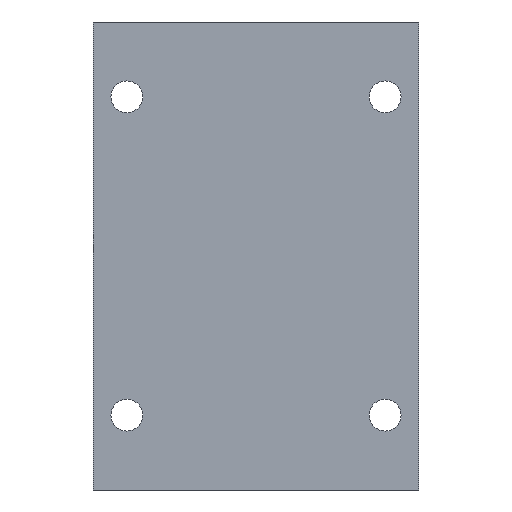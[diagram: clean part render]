
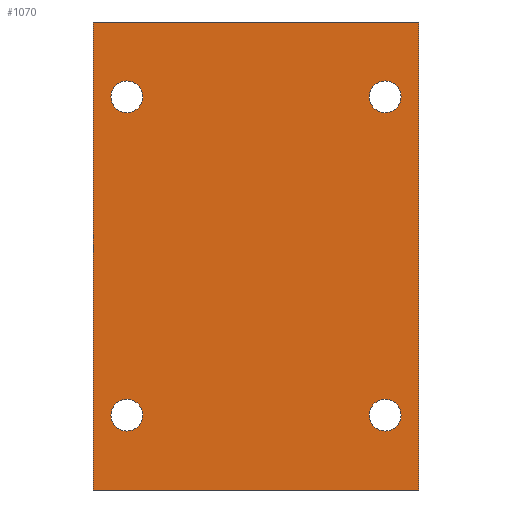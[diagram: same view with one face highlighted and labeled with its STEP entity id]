
A CAD part, front view. The second image highlights one B-rep face of the part: STEP entity #1070.
In plain terms, the highlighted planar face has unit normal (0, -1, 0).
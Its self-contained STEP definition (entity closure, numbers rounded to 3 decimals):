
#5 = AXIS2_PLACEMENT_3D ( 'NONE', #203, #1177, #974 ) ;
#15 = VERTEX_POINT ( 'NONE', #145 ) ;
#23 = CARTESIAN_POINT ( 'NONE',  ( -43.5, -38., 62.5 ) ) ;
#33 = CARTESIAN_POINT ( 'NONE',  ( 34.5, -38., -42.5 ) ) ;
#39 = CARTESIAN_POINT ( 'NONE',  ( 34.5, -38., -46.75 ) ) ;
#54 = EDGE_CURVE ( 'NONE', #701, #1277, #1142, .T. ) ;
#61 = DIRECTION ( 'NONE',  ( 0., 0., -1. ) ) ;
#64 = CARTESIAN_POINT ( 'NONE',  ( -34.5, -38., 46.75 ) ) ;
#90 = CARTESIAN_POINT ( 'NONE',  ( -34.5, -38., 38.25 ) ) ;
#91 = ORIENTED_EDGE ( 'NONE', *, *, #355, .F. ) ;
#103 = DIRECTION ( 'NONE',  ( 0., -1., 0. ) ) ;
#116 = DIRECTION ( 'NONE',  ( 0., 0., -1. ) ) ;
#133 = LINE ( 'NONE', #331, #757 ) ;
#134 = VERTEX_POINT ( 'NONE', #64 ) ;
#145 = CARTESIAN_POINT ( 'NONE',  ( -34.5, -38., -46.75 ) ) ;
#157 = DIRECTION ( 'NONE',  ( 0., -1., 0. ) ) ;
#203 = CARTESIAN_POINT ( 'NONE',  ( -43.5, -38., 62.5 ) ) ;
#222 = ORIENTED_EDGE ( 'NONE', *, *, #1145, .F. ) ;
#223 = EDGE_LOOP ( 'NONE', ( #597, #953 ) ) ;
#246 = DIRECTION ( 'NONE',  ( 1., 0., 0. ) ) ;
#255 = EDGE_CURVE ( 'NONE', #400, #1029, #312, .T. ) ;
#271 = CIRCLE ( 'NONE', #449, 4.25 ) ;
#276 = FACE_BOUND ( 'NONE', #223, .T. ) ;
#290 = ORIENTED_EDGE ( 'NONE', *, *, #1228, .F. ) ;
#291 = DIRECTION ( 'NONE',  ( 0., -1., 0. ) ) ;
#294 = CARTESIAN_POINT ( 'NONE',  ( 34.5, -38., 38.25 ) ) ;
#305 = DIRECTION ( 'NONE',  ( 0., -1., 0. ) ) ;
#312 = CIRCLE ( 'NONE', #692, 4.25 ) ;
#317 = EDGE_CURVE ( 'NONE', #817, #701, #397, .T. ) ;
#323 = EDGE_CURVE ( 'NONE', #540, #134, #950, .T. ) ;
#331 = CARTESIAN_POINT ( 'NONE',  ( -43.5, -38., 62.5 ) ) ;
#337 = AXIS2_PLACEMENT_3D ( 'NONE', #910, #305, #618 ) ;
#355 = EDGE_CURVE ( 'NONE', #1199, #15, #738, .T. ) ;
#357 = CIRCLE ( 'NONE', #573, 4.25 ) ;
#370 = DIRECTION ( 'NONE',  ( 0., -1., 0. ) ) ;
#375 = CIRCLE ( 'NONE', #1242, 4.25 ) ;
#378 = AXIS2_PLACEMENT_3D ( 'NONE', #1195, #291, #797 ) ;
#382 = EDGE_CURVE ( 'NONE', #411, #1033, #271, .T. ) ;
#397 = LINE ( 'NONE', #903, #469 ) ;
#400 = VERTEX_POINT ( 'NONE', #431 ) ;
#411 = VERTEX_POINT ( 'NONE', #39 ) ;
#431 = CARTESIAN_POINT ( 'NONE',  ( 34.5, -38., 46.75 ) ) ;
#433 = DIRECTION ( 'NONE',  ( 1., 0., 0. ) ) ;
#449 = AXIS2_PLACEMENT_3D ( 'NONE', #563, #1131, #1052 ) ;
#468 = AXIS2_PLACEMENT_3D ( 'NONE', #33, #1202, #116 ) ;
#469 = VECTOR ( 'NONE', #790, 1000. ) ;
#525 = CARTESIAN_POINT ( 'NONE',  ( 43.5, -38., 62.5 ) ) ;
#534 = CIRCLE ( 'NONE', #1219, 4.25 ) ;
#540 = VERTEX_POINT ( 'NONE', #90 ) ;
#542 = CARTESIAN_POINT ( 'NONE',  ( -43.5, -38., -62.5 ) ) ;
#563 = CARTESIAN_POINT ( 'NONE',  ( 34.5, -38., -42.5 ) ) ;
#568 = CARTESIAN_POINT ( 'NONE',  ( -43.5, -38., -62.5 ) ) ;
#573 = AXIS2_PLACEMENT_3D ( 'NONE', #633, #1133, #1208 ) ;
#588 = EDGE_LOOP ( 'NONE', ( #222, #1191 ) ) ;
#590 = EDGE_LOOP ( 'NONE', ( #290, #91 ) ) ;
#597 = ORIENTED_EDGE ( 'NONE', *, *, #323, .F. ) ;
#601 = FACE_OUTER_BOUND ( 'NONE', #801, .T. ) ;
#606 = EDGE_LOOP ( 'NONE', ( #1080, #922 ) ) ;
#618 = DIRECTION ( 'NONE',  ( 0., 0., -1. ) ) ;
#626 = DIRECTION ( 'NONE',  ( 0., 0., -1. ) ) ;
#633 = CARTESIAN_POINT ( 'NONE',  ( -34.5, -38., -42.5 ) ) ;
#671 = EDGE_CURVE ( 'NONE', #134, #540, #534, .T. ) ;
#692 = AXIS2_PLACEMENT_3D ( 'NONE', #1272, #370, #1102 ) ;
#701 = VERTEX_POINT ( 'NONE', #568 ) ;
#716 = CARTESIAN_POINT ( 'NONE',  ( 43.5, -38., 62.5 ) ) ;
#724 = LINE ( 'NONE', #525, #862 ) ;
#728 = EDGE_CURVE ( 'NONE', #787, #1277, #724, .T. ) ;
#729 = CARTESIAN_POINT ( 'NONE',  ( -34.5, -38., -38.25 ) ) ;
#738 = CIRCLE ( 'NONE', #337, 4.25 ) ;
#757 = VECTOR ( 'NONE', #433, 1000. ) ;
#778 = FACE_BOUND ( 'NONE', #606, .T. ) ;
#787 = VERTEX_POINT ( 'NONE', #716 ) ;
#788 = ORIENTED_EDGE ( 'NONE', *, *, #1247, .F. ) ;
#790 = DIRECTION ( 'NONE',  ( 0., 0., -1. ) ) ;
#794 = ORIENTED_EDGE ( 'NONE', *, *, #728, .F. ) ;
#797 = DIRECTION ( 'NONE',  ( 0., 0., -1. ) ) ;
#801 = EDGE_LOOP ( 'NONE', ( #930, #794, #788, #1109 ) ) ;
#803 = CARTESIAN_POINT ( 'NONE',  ( 34.5, -38., 42.5 ) ) ;
#817 = VERTEX_POINT ( 'NONE', #23 ) ;
#862 = VECTOR ( 'NONE', #1115, 1000. ) ;
#864 = CARTESIAN_POINT ( 'NONE',  ( 43.5, -38., -62.5 ) ) ;
#874 = FACE_BOUND ( 'NONE', #588, .T. ) ;
#903 = CARTESIAN_POINT ( 'NONE',  ( -43.5, -38., 62.5 ) ) ;
#904 = VECTOR ( 'NONE', #246, 1000. ) ;
#910 = CARTESIAN_POINT ( 'NONE',  ( -34.5, -38., -42.5 ) ) ;
#922 = ORIENTED_EDGE ( 'NONE', *, *, #1205, .F. ) ;
#930 = ORIENTED_EDGE ( 'NONE', *, *, #54, .T. ) ;
#950 = CIRCLE ( 'NONE', #378, 4.25 ) ;
#953 = ORIENTED_EDGE ( 'NONE', *, *, #671, .F. ) ;
#974 = DIRECTION ( 'NONE',  ( 0., 0., 1. ) ) ;
#993 = PLANE ( 'NONE',  #5 ) ;
#1029 = VERTEX_POINT ( 'NONE', #294 ) ;
#1033 = VERTEX_POINT ( 'NONE', #1197 ) ;
#1048 = CIRCLE ( 'NONE', #468, 4.25 ) ;
#1049 = CARTESIAN_POINT ( 'NONE',  ( -34.5, -38., 42.5 ) ) ;
#1052 = DIRECTION ( 'NONE',  ( 0., 0., -1. ) ) ;
#1070 = ADVANCED_FACE ( 'NONE', ( #874, #1181, #601, #276, #778 ), #993, .F. ) ;
#1080 = ORIENTED_EDGE ( 'NONE', *, *, #382, .F. ) ;
#1102 = DIRECTION ( 'NONE',  ( 0., 0., -1. ) ) ;
#1109 = ORIENTED_EDGE ( 'NONE', *, *, #317, .T. ) ;
#1115 = DIRECTION ( 'NONE',  ( 0., 0., -1. ) ) ;
#1131 = DIRECTION ( 'NONE',  ( 0., -1., 0. ) ) ;
#1133 = DIRECTION ( 'NONE',  ( 0., -1., 0. ) ) ;
#1142 = LINE ( 'NONE', #542, #904 ) ;
#1145 = EDGE_CURVE ( 'NONE', #1029, #400, #375, .T. ) ;
#1177 = DIRECTION ( 'NONE',  ( 0., 1., 0. ) ) ;
#1181 = FACE_BOUND ( 'NONE', #590, .T. ) ;
#1191 = ORIENTED_EDGE ( 'NONE', *, *, #255, .F. ) ;
#1195 = CARTESIAN_POINT ( 'NONE',  ( -34.5, -38., 42.5 ) ) ;
#1197 = CARTESIAN_POINT ( 'NONE',  ( 34.5, -38., -38.25 ) ) ;
#1199 = VERTEX_POINT ( 'NONE', #729 ) ;
#1202 = DIRECTION ( 'NONE',  ( 0., -1., 0. ) ) ;
#1205 = EDGE_CURVE ( 'NONE', #1033, #411, #1048, .T. ) ;
#1208 = DIRECTION ( 'NONE',  ( 0., 0., -1. ) ) ;
#1219 = AXIS2_PLACEMENT_3D ( 'NONE', #1049, #157, #61 ) ;
#1228 = EDGE_CURVE ( 'NONE', #15, #1199, #357, .T. ) ;
#1242 = AXIS2_PLACEMENT_3D ( 'NONE', #803, #103, #626 ) ;
#1247 = EDGE_CURVE ( 'NONE', #817, #787, #133, .T. ) ;
#1272 = CARTESIAN_POINT ( 'NONE',  ( 34.5, -38., 42.5 ) ) ;
#1277 = VERTEX_POINT ( 'NONE', #864 ) ;
